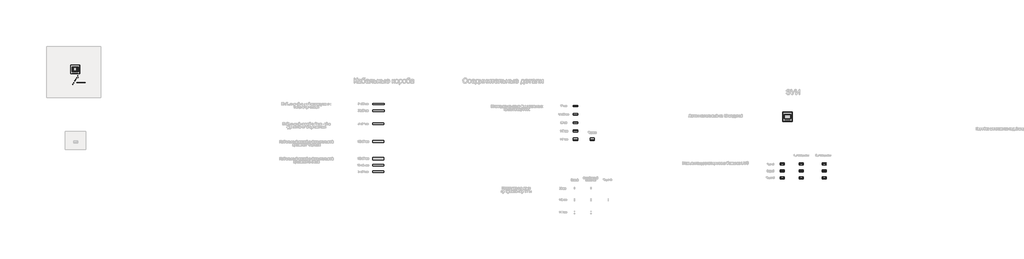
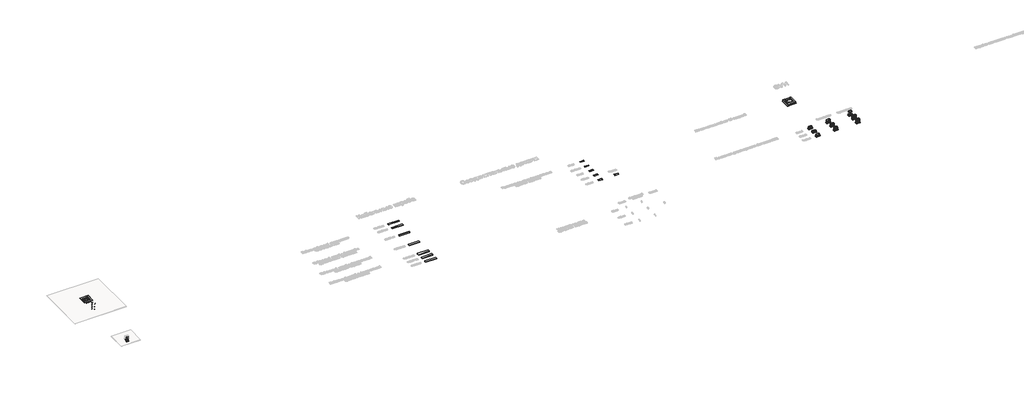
# One storey, part 2 of 48: 37 proxies, 31 cable carrier segments, 18 cable carrier fittings.
"""IFC4 building model written with IfcOpenShell, lengths in millimetres."""

from ifc_helpers import new_model, si_unit, point, frame, frame_2d, origin, place, context, project, spatial, polyline, circle_curve, trimmed, segment, composite_curve, outline, extrude, transform, mapped, element, save
from components import electrical_fixtures_62c05acc, electrical_fixtures_d9d6a25e, electrical_fixtures_e65b3ef2, electrical_fixtures_c1c56b4e, electrical_fixtures_f8ef05b3, electrical_fixtures_1be6d308, electrical_fixtures_432b87b8, electrical_fixtures_34fc644d, electrical_fixtures_3dbf6029, electrical_fixtures_686b93b9, electrical_fixtures_416891ac, electrical_fixtures_630f2619, electrical_fixtures_2df1c550, electrical_fixtures_1d311426, electrical_fixtures_5cea76de, electrical_fixtures_01b03277, electrical_fixtures_955ce091, cable_carrier_fitting_0182879c, cable_carrier_fitting_bd18bc15, cable_carrier_fitting_90a67864, cable_carrier_fitting_55dd1e67, cable_carrier_fitting_1b10b712, cable_carrier_fitting_b6f63aa2, cable_carrier_fitting_7589559d

model = new_model("IFC4")

# Units and contexts
model_context = context("Model", 3, world=origin())
ifc_project = project(units=[si_unit("LENGTHUNIT", "METRE", prefix="MILLI")], contexts=[model_context])

# Site, building, storey
site = spatial("IfcSite", under=ifc_project)
building = spatial("IfcBuilding", under=site)
storey = spatial("IfcBuildingStorey", under=building, Name="Этаж 01", Elevation=0.0)

# Proxies
placement = place(None, origin())
electrical_fixtures_shape = electrical_fixtures_62c05acc(model_context)
element("IfcBuildingElementProxy", 1, Name="Опалубка для лючков металлическая : Опалубка для лючков металлическая", ObjectType="Опалубка для лючков металлическая : Опалубка для лючков металлическая", at=placement, inside=storey, context=model_context, shape_type="MappedRepresentation", body=[
    mapped(electrical_fixtures_shape, transform((25863.7191063, 3878.3864585, -101.5), x_axis=(1.0, 0.0, 0.0), y_axis=(0.0, 1.0, 0.0), z_axis=(0.0, 0.0, 1.0))),
])
element("IfcBuildingElementProxy", 2, Name="Опалубка для лючков металлическая : Опалубка для лючков металлическая", ObjectType="Опалубка для лючков металлическая : Опалубка для лючков металлическая", at=placement, inside=storey, context=model_context, shape_type="MappedRepresentation", body=[
    mapped(electrical_fixtures_shape, transform((-16815.2403415, 6724.4342085, -101.5), x_axis=(1.0, 0.0, 0.0), y_axis=(0.0, 1.0, 0.0), z_axis=(0.0, 0.0, 1.0))),
])
electrical_fixtures_2_shape = electrical_fixtures_d9d6a25e(model_context)
element("IfcBuildingElementProxy", 3, Name="Суппорт для установки автоматических выключателей в лючок : Суппорт для установки автоматических выключателей в лючок", ObjectType="Суппорт для установки автоматических выключателей в лючок : Суппорт для установки автоматических выключателей в лючок", at=placement, inside=storey, context=model_context, shape_type="MappedRepresentation", body=[
    mapped(electrical_fixtures_2_shape, transform((25699.7142671, 3878.3864585, -89.5), x_axis=(0.0, 1.0, 0.0), y_axis=(-1.0, 0.0, 0.0), z_axis=(0.0, 0.0, 1.0))),
])
electrical_fixtures_3_shape = electrical_fixtures_e65b3ef2(model_context)
element("IfcBuildingElementProxy", 4, Name="Крышка опалубки для установки лючка In-liner Front 12 модулей : Крышка опалубки для установки лючка In-liner Front 12 модулей", ObjectType="Крышка опалубки для установки лючка In-liner Front 12 модулей : Крышка опалубки для установки лючка In-liner Front 12 модулей", at=placement, inside=storey, context=model_context, shape_type="MappedRepresentation", body=[
    mapped(electrical_fixtures_3_shape, transform((-16815.2403415, 6724.4342085, -2.0), x_axis=(0.0, 1.0, 0.0), y_axis=(-1.0, 0.0, 0.0), z_axis=(0.0, 0.0, 1.0))),
])
element("IfcBuildingElementProxy", 5, Name="Крышка опалубки для установки лючка In-liner Front 12 модулей : Крышка опалубки для установки лючка In-liner Front 12 модулей", ObjectType="Крышка опалубки для установки лючка In-liner Front 12 модулей : Крышка опалубки для установки лючка In-liner Front 12 модулей", at=placement, inside=storey, context=model_context, shape_type="MappedRepresentation", body=[
    mapped(electrical_fixtures_3_shape, transform((25863.7191063, 3878.3864585, -2.0), x_axis=(0.0, 1.0, 0.0), y_axis=(-1.0, 0.0, 0.0), z_axis=(0.0, 0.0, 1.0))),
])
electrical_fixtures_4_shape = electrical_fixtures_c1c56b4e(model_context)
element("IfcBuildingElementProxy", 6, Name="Крышка опалубки сплошная металлическая : Крышка опалубки сплошная металлическая", ObjectType="Крышка опалубки сплошная металлическая : Крышка опалубки сплошная металлическая", at=placement, inside=storey, context=model_context, shape_type="MappedRepresentation", body=[
    mapped(electrical_fixtures_4_shape, transform((25863.7191063, 3878.3864585, -2.0), x_axis=(1.0, 0.0, 0.0), y_axis=(0.0, 1.0, 0.0), z_axis=(0.0, 0.0, 1.0))),
])
electrical_fixtures_5_shape = electrical_fixtures_f8ef05b3(model_context)
element("IfcBuildingElementProxy", 7, Name="Вертикальное расширение напольной башенки BUS : Вертикальное расширение напольной башенки BUS", ObjectType="Вертикальное расширение напольной башенки BUS : Вертикальное расширение напольной башенки BUS", at=placement, inside=storey, context=model_context, shape_type="MappedRepresentation", body=[
    mapped(electrical_fixtures_5_shape, transform((26681.3045571, 1040.0571724, 91.5), x_axis=(1.0, 0.0, 0.0), y_axis=(0.0, 1.0, 0.0), z_axis=(0.0, 0.0, 1.0))),
])
electrical_fixtures_6_shape = electrical_fixtures_1be6d308(model_context)
element("IfcBuildingElementProxy", 8, Name="КНС_ЛючокНапольныйНа12Модулей_ILF_DKC : Лючок", ObjectType="КНС_ЛючокНапольныйНа12Модулей_ILF_DKC : Лючок", at=placement, inside=storey, context=model_context, shape_type="MappedRepresentation", body=[
    mapped(electrical_fixtures_6_shape, transform((25863.7191063, 3878.3864585, 0.0), x_axis=(1.0, 0.0, 0.0), y_axis=(0.0, 1.0, 0.0), z_axis=(0.0, 0.0, 1.0))),
])
electrical_fixtures_7_shape = electrical_fixtures_432b87b8(model_context)
element("IfcBuildingElementProxy", 9, Name="КНС_Каркас6МодулейДляМонтажаЭУИСерииViva_ILF_DKC : Белый", ObjectType="КНС_Каркас6МодулейДляМонтажаЭУИСерииViva_ILF_DKC : Белый", at=placement, inside=storey, context=model_context, shape_type="MappedRepresentation", body=[
    mapped(electrical_fixtures_7_shape, transform((-16954.0567368, 6730.3253747, -40.0), x_axis=(0.0, 1.0, 0.0), y_axis=(-1.0, 0.0, 0.0), z_axis=(0.0, 0.0, 1.0))),
])
electrical_fixtures_8_shape = electrical_fixtures_34fc644d(model_context)
element("IfcBuildingElementProxy", 10, Name="Комплект пластины для ввода труб в металлическую опалубку : Комплект пластины для ввода труб в металлическую опалубку", ObjectType="Комплект пластины для ввода труб в металлическую опалубку : Комплект пластины для ввода труб в металлическую опалубку", at=placement, inside=storey, context=model_context, shape_type="MappedRepresentation", body=[
    mapped(electrical_fixtures_8_shape, transform((25863.7191063, 3613.3864585, -59.5), x_axis=(1.0, 0.0, 0.0), y_axis=(0.0, 1.0, 0.0), z_axis=(0.0, 0.0, 1.0))),
])
element("IfcBuildingElementProxy", 11, Name="Комплект пластины для ввода труб в металлическую опалубку : Комплект пластины для ввода труб в металлическую опалубку", ObjectType="Комплект пластины для ввода труб в металлическую опалубку : Комплект пластины для ввода труб в металлическую опалубку", at=placement, inside=storey, context=model_context, shape_type="MappedRepresentation", body=[
    mapped(electrical_fixtures_8_shape, transform((-16815.2403415, 6459.4342085, -59.5), x_axis=(1.0, 0.0, 0.0), y_axis=(0.0, 1.0, 0.0), z_axis=(0.0, 0.0, 1.0))),
])
electrical_fixtures_9_shape = electrical_fixtures_3dbf6029(model_context)
element("IfcBuildingElementProxy", 12, Name="Электрические розетки, штекерные, с заземлением и со шторками, моноблок : Белый", ObjectType="Электрические розетки, штекерные, с заземлением и со шторками, моноблок : Белый", at=placement, inside=storey, context=model_context, shape_type="MappedRepresentation", body=[
    mapped(electrical_fixtures_9_shape, transform((-16956.5567368, 6730.3253747, -40.0), x_axis=(0.0, 1.0, 0.0), y_axis=(-1.0, 0.0, 0.0), z_axis=(0.0, 0.0, 1.0))),
])
electrical_fixtures_10_shape = electrical_fixtures_686b93b9(model_context)
element("IfcBuildingElementProxy", 13, Name="Электрические розетки, штекерные, с заземлением и со шторками, моноблок : Белый", ObjectType="Электрические розетки, штекерные, с заземлением и со шторками, моноблок : Белый", at=placement, inside=storey, context=model_context, shape_type="MappedRepresentation", body=[
    mapped(electrical_fixtures_10_shape, transform((-16673.9239462, 6730.3253747, -40.0), x_axis=(0.0, 1.0, 0.0), y_axis=(-1.0, 0.0, 0.0), z_axis=(0.0, 0.0, 1.0))),
])
electrical_fixtures_11_shape = electrical_fixtures_416891ac(model_context)
element("IfcBuildingElementProxy", 14, Name="Суппорт для монтажа ЭУИ серии Viva на DIN-рейку или монтажную плату1 : 1 модуль 2", ObjectType="Суппорт для монтажа ЭУИ серии Viva на DIN-рейку или монтажную плату1 : 1 модуль 2", at=placement, inside=storey, context=model_context, shape_type="MappedRepresentation", body=[
    mapped(electrical_fixtures_11_shape, transform((-16722.23976, 2325.6904128, 127.875), x_axis=(1.0, 0.0, 0.0), y_axis=(0.0, 1.0, 0.0), z_axis=(0.0, 0.0, 1.0))),
])
element("IfcBuildingElementProxy", 15, Name="Суппорт для монтажа ЭУИ серии Viva на DIN-рейку или монтажную плату1 : 1 модуль 2", ObjectType="Суппорт для монтажа ЭУИ серии Viva на DIN-рейку или монтажную плату1 : 1 модуль 2", at=placement, inside=storey, context=model_context, shape_type="MappedRepresentation", body=[
    mapped(electrical_fixtures_11_shape, transform((-16850.23976, 2325.6904128, 127.875), x_axis=(1.0, 0.0, 0.0), y_axis=(0.0, 1.0, 0.0), z_axis=(0.0, 0.0, 1.0))),
])
element("IfcBuildingElementProxy", 16, Name="Суппорт для монтажа ЭУИ серии Viva на DIN-рейку или монтажную плату1 : 1 модуль 2", ObjectType="Суппорт для монтажа ЭУИ серии Viva на DIN-рейку или монтажную плату1 : 1 модуль 2", at=placement, inside=storey, context=model_context, shape_type="MappedRepresentation", body=[
    mapped(electrical_fixtures_11_shape, transform((-16828.23976, 2325.6904128, 127.875), x_axis=(1.0, 0.0, 0.0), y_axis=(0.0, 1.0, 0.0), z_axis=(0.0, 0.0, 1.0))),
])
electrical_fixtures_12_shape = electrical_fixtures_630f2619(model_context)
element("IfcBuildingElementProxy", 17, Name="Компьютерные розетки : Категория 5e", ObjectType="Компьютерные розетки : Категория 5e", at=placement, inside=storey, context=model_context, shape_type="MappedRepresentation", body=[
    mapped(electrical_fixtures_12_shape, transform((-16722.23976, 2337.6904128, 127.875), x_axis=(1.0, 0.0, 0.0), y_axis=(0.0, 1.0, 0.0), z_axis=(0.0, 0.0, 1.0))),
])
element("IfcBuildingElementProxy", 18, Name="Компьютерные розетки : Категория 5e", ObjectType="Компьютерные розетки : Категория 5e", at=placement, inside=storey, context=model_context, shape_type="MappedRepresentation", body=[
    mapped(electrical_fixtures_12_shape, transform((-16850.23976, 2337.6904128, 127.875), x_axis=(1.0, 0.0, 0.0), y_axis=(0.0, 1.0, 0.0), z_axis=(0.0, 0.0, 1.0))),
])
element("IfcBuildingElementProxy", 19, Name="Компьютерные розетки : Категория 5e", ObjectType="Компьютерные розетки : Категория 5e", at=placement, inside=storey, context=model_context, shape_type="MappedRepresentation", body=[
    mapped(electrical_fixtures_12_shape, transform((-16828.23976, 2337.6904128, 127.875), x_axis=(1.0, 0.0, 0.0), y_axis=(0.0, 1.0, 0.0), z_axis=(0.0, 0.0, 1.0))),
])
electrical_fixtures_13_shape = electrical_fixtures_2df1c550(model_context)
element("IfcBuildingElementProxy", 20, Name="КНС_НапольнаяДвухсторонняяБашенкаBUS_ILF_DKC : Напольная двухсторонняя башенка BUS_ILF_DKC", ObjectType="КНС_НапольнаяДвухсторонняяБашенкаBUS_ILF_DKC : Напольная двухсторонняя башенка BUS_ILF_DKC", at=placement, inside=storey, context=model_context, shape_type="MappedRepresentation", body=[
    mapped(electrical_fixtures_13_shape, transform((25543.7191063, 210.3603801, 0.0), x_axis=(1.0, 0.0, 0.0), y_axis=(0.0, 1.0, 0.0), z_axis=(0.0, 0.0, 1.0))),
])
electrical_fixtures_14_shape = electrical_fixtures_1d311426(model_context)
element("IfcBuildingElementProxy", 21, Name="КНС_НапольнаяДвухсторонняяБашенкаBUS_ILF_DKC : Напольная двухсторонняя башенка BUS_ILF_DKC", ObjectType="КНС_НапольнаяДвухсторонняяБашенкаBUS_ILF_DKC : Напольная двухсторонняя башенка BUS_ILF_DKC", at=placement, inside=storey, context=model_context, shape_type="MappedRepresentation", body=[
    mapped(electrical_fixtures_14_shape, transform((26681.3045571, 210.3603801, 0.0), x_axis=(1.0, 0.0, 0.0), y_axis=(0.0, 1.0, 0.0), z_axis=(0.0, 0.0, 1.0))),
])
element("IfcBuildingElementProxy", 22, Name="Вертикальное расширение напольной башенки BUS : Вертикальное расширение напольной башенки BUS", ObjectType="Вертикальное расширение напольной башенки BUS : Вертикальное расширение напольной башенки BUS", at=placement, inside=storey, context=model_context, shape_type="MappedRepresentation", body=[
    mapped(electrical_fixtures_5_shape, transform((26681.3045571, 210.3603801, 91.5), x_axis=(1.0, 0.0, 0.0), y_axis=(0.0, 1.0, 0.0), z_axis=(0.0, 0.0, 1.0))),
])
element("IfcBuildingElementProxy", 23, Name="Вертикальное расширение напольной башенки BUS : Вертикальное расширение напольной башенки BUS", ObjectType="Вертикальное расширение напольной башенки BUS : Вертикальное расширение напольной башенки BUS", at=placement, inside=storey, context=model_context, shape_type="MappedRepresentation", body=[
    mapped(electrical_fixtures_5_shape, transform((28063.7191063, 210.3603801, 91.5), x_axis=(1.0, 0.0, 0.0), y_axis=(0.0, 1.0, 0.0), z_axis=(0.0, 0.0, 1.0))),
])
element("IfcBuildingElementProxy", 24, Name="Вертикальное расширение напольной башенки BUS : Вертикальное расширение напольной башенки BUS", ObjectType="Вертикальное расширение напольной башенки BUS : Вертикальное расширение напольной башенки BUS", at=placement, inside=storey, context=model_context, shape_type="MappedRepresentation", body=[
    mapped(electrical_fixtures_5_shape, transform((28063.7191063, 210.3603801, 162.5), x_axis=(1.0, 0.0, 0.0), y_axis=(0.0, 1.0, 0.0), z_axis=(0.0, 0.0, 1.0))),
])
element("IfcBuildingElementProxy", 25, Name="КНС_НапольнаяДвухсторонняяБашенкаBUS_ILF_DKC : Напольная двухсторонняя башенка BUS_ILF_DKC", ObjectType="КНС_НапольнаяДвухсторонняяБашенкаBUS_ILF_DKC : Напольная двухсторонняя башенка BUS_ILF_DKC", at=placement, inside=storey, context=model_context, shape_type="MappedRepresentation", body=[
    mapped(electrical_fixtures_13_shape, transform((25543.7191063, 625.2087763, 0.0), x_axis=(1.0, 0.0, 0.0), y_axis=(0.0, 1.0, 0.0), z_axis=(0.0, 0.0, 1.0))),
])
element("IfcBuildingElementProxy", 26, Name="КНС_НапольнаяДвухсторонняяБашенкаBUS_ILF_DKC : Напольная двухсторонняя башенка BUS_ILF_DKC", ObjectType="КНС_НапольнаяДвухсторонняяБашенкаBUS_ILF_DKC : Напольная двухсторонняя башенка BUS_ILF_DKC", at=placement, inside=storey, context=model_context, shape_type="MappedRepresentation", body=[
    mapped(electrical_fixtures_13_shape, transform((25543.7191063, 1040.0571724, 0.0), x_axis=(1.0, 0.0, 0.0), y_axis=(0.0, 1.0, 0.0), z_axis=(0.0, 0.0, 1.0))),
])
element("IfcBuildingElementProxy", 27, Name="КНС_НапольнаяДвухсторонняяБашенкаBUS_ILF_DKC : Напольная двухсторонняя башенка BUS_ILF_DKC", ObjectType="КНС_НапольнаяДвухсторонняяБашенкаBUS_ILF_DKC : Напольная двухсторонняя башенка BUS_ILF_DKC", at=placement, inside=storey, context=model_context, shape_type="MappedRepresentation", body=[
    mapped(electrical_fixtures_14_shape, transform((26681.3045571, 1040.0571724, 0.0), x_axis=(1.0, 0.0, 0.0), y_axis=(0.0, 1.0, 0.0), z_axis=(0.0, 0.0, 1.0))),
])
electrical_fixtures_15_shape = electrical_fixtures_5cea76de(model_context)
element("IfcBuildingElementProxy", 28, Name="КНС_НапольнаяДвухсторонняяБашенкаBUS_ILF_DKC : Напольная двухсторонняя башенка BUS_ILF_DKC", ObjectType="КНС_НапольнаяДвухсторонняяБашенкаBUS_ILF_DKC : Напольная двухсторонняя башенка BUS_ILF_DKC", at=placement, inside=storey, context=model_context, shape_type="MappedRepresentation", body=[
    mapped(electrical_fixtures_15_shape, transform((28063.7191063, 1040.0571724, 0.0), x_axis=(1.0, 0.0, 0.0), y_axis=(0.0, 1.0, 0.0), z_axis=(0.0, 0.0, 1.0))),
])
element("IfcBuildingElementProxy", 29, Name="КНС_НапольнаяДвухсторонняяБашенкаBUS_ILF_DKC : Напольная двухсторонняя башенка BUS_ILF_DKC", ObjectType="КНС_НапольнаяДвухсторонняяБашенкаBUS_ILF_DKC : Напольная двухсторонняя башенка BUS_ILF_DKC", at=placement, inside=storey, context=model_context, shape_type="MappedRepresentation", body=[
    mapped(electrical_fixtures_15_shape, transform((28063.7191063, 210.3603801, 0.0), x_axis=(1.0, 0.0, 0.0), y_axis=(0.0, 1.0, 0.0), z_axis=(0.0, 0.0, 1.0))),
])
element("IfcBuildingElementProxy", 30, Name="КНС_НапольнаяДвухсторонняяБашенкаBUS_ILF_DKC : Напольная двухсторонняя башенка BUS_ILF_DKC", ObjectType="КНС_НапольнаяДвухсторонняяБашенкаBUS_ILF_DKC : Напольная двухсторонняя башенка BUS_ILF_DKC", at=placement, inside=storey, context=model_context, shape_type="MappedRepresentation", body=[
    mapped(electrical_fixtures_14_shape, transform((26681.3045571, 625.2087763, 0.0), x_axis=(1.0, 0.0, 0.0), y_axis=(0.0, 1.0, 0.0), z_axis=(0.0, 0.0, 1.0))),
])
element("IfcBuildingElementProxy", 31, Name="Вертикальное расширение напольной башенки BUS : Вертикальное расширение напольной башенки BUS", ObjectType="Вертикальное расширение напольной башенки BUS : Вертикальное расширение напольной башенки BUS", at=placement, inside=storey, context=model_context, shape_type="MappedRepresentation", body=[
    mapped(electrical_fixtures_5_shape, transform((26681.3045571, 625.2087763, 91.5), x_axis=(1.0, 0.0, 0.0), y_axis=(0.0, 1.0, 0.0), z_axis=(0.0, 0.0, 1.0))),
])
element("IfcBuildingElementProxy", 32, Name="Вертикальное расширение напольной башенки BUS : Вертикальное расширение напольной башенки BUS", ObjectType="Вертикальное расширение напольной башенки BUS : Вертикальное расширение напольной башенки BUS", at=placement, inside=storey, context=model_context, shape_type="MappedRepresentation", body=[
    mapped(electrical_fixtures_5_shape, transform((28063.7191063, 625.2087763, 91.5), x_axis=(1.0, 0.0, 0.0), y_axis=(0.0, 1.0, 0.0), z_axis=(0.0, 0.0, 1.0))),
])
element("IfcBuildingElementProxy", 33, Name="Вертикальное расширение напольной башенки BUS : Вертикальное расширение напольной башенки BUS", ObjectType="Вертикальное расширение напольной башенки BUS : Вертикальное расширение напольной башенки BUS", at=placement, inside=storey, context=model_context, shape_type="MappedRepresentation", body=[
    mapped(electrical_fixtures_5_shape, transform((28063.7191063, 625.2087763, 162.5), x_axis=(1.0, 0.0, 0.0), y_axis=(0.0, 1.0, 0.0), z_axis=(0.0, 0.0, 1.0))),
])
element("IfcBuildingElementProxy", 34, Name="КНС_НапольнаяДвухсторонняяБашенкаBUS_ILF_DKC : Напольная двухсторонняя башенка BUS_ILF_DKC", ObjectType="КНС_НапольнаяДвухсторонняяБашенкаBUS_ILF_DKC : Напольная двухсторонняя башенка BUS_ILF_DKC", at=placement, inside=storey, context=model_context, shape_type="MappedRepresentation", body=[
    mapped(electrical_fixtures_15_shape, transform((28063.7191063, 625.2087763, 0.0), x_axis=(1.0, 0.0, 0.0), y_axis=(0.0, 1.0, 0.0), z_axis=(0.0, 0.0, 1.0))),
])
electrical_fixtures_16_shape = electrical_fixtures_01b03277(model_context)
element("IfcBuildingElementProxy", 35, Name="КНС_Каркас6МодулейДляМонтажаЭУИСерииViva_ILF_DKC : Белый", ObjectType="КНС_Каркас6МодулейДляМонтажаЭУИСерииViva_ILF_DKC : Белый", at=placement, inside=storey, context=model_context, shape_type="MappedRepresentation", body=[
    mapped(electrical_fixtures_16_shape, transform((-16676.4239462, 6730.3253747, -40.0), x_axis=(0.0, 1.0, 0.0), y_axis=(-1.0, 0.0, 0.0), z_axis=(0.0, 0.0, 1.0))),
])
electrical_fixtures_17_shape = electrical_fixtures_955ce091(model_context)
element("IfcBuildingElementProxy", 36, Name="Суппорт для установки автоматических выключателей в лючок : Суппорт для установки автоматических выключателей в лючок", ObjectType="Суппорт для установки автоматических выключателей в лючок : Суппорт для установки автоматических выключателей в лючок", at=placement, inside=storey, context=model_context, shape_type="MappedRepresentation", body=[
    mapped(electrical_fixtures_17_shape, transform((26027.7239455, 3878.3864585, -89.5), x_axis=(0.0, 1.0, 0.0), y_axis=(-1.0, 0.0, 0.0), z_axis=(0.0, 0.0, 1.0))),
])
element("IfcBuildingElementProxy", 37, Name="КНС_ЛючокНапольныйНа12Модулей_ILF_DKC : Лючок", ObjectType="КНС_ЛючокНапольныйНа12Модулей_ILF_DKC : Лючок", at=placement, inside=storey, context=model_context, shape_type="MappedRepresentation", body=[
    mapped(electrical_fixtures_6_shape, transform((-16815.2403415, 6724.4342085, 0.0), x_axis=(1.0, 0.0, 0.0), y_axis=(0.0, 1.0, 0.0), z_axis=(0.0, 0.0, 1.0))),
])

# Cable carrier fittings
cable_carrier_fitting_shape = cable_carrier_fitting_0182879c(model_context)
element("IfcCableCarrierFitting", 38, ObjectType="КНС_НакладкаНаСтыкФронтальныхКрышекКоробов_ILF_DKC : Накладка на стык фронтальных крышек коробов", at=placement, inside=storey, context=model_context, shape_type="MappedRepresentation", body=[
    mapped(cable_carrier_fitting_shape, transform((14161.9982063, 2519.1365557, 0.0), x_axis=(1.0, 0.0, 0.0), y_axis=(0.0, 1.0, 0.0), z_axis=(0.0, 0.0, 1.0))),
])
cable_carrier_fitting_2_shape = cable_carrier_fitting_bd18bc15(model_context)
element("IfcCableCarrierFitting", 39, ObjectType="ADSK_Поворот : Металл", at=placement, inside=storey, context=model_context, shape_type="MappedRepresentation", body=[
    mapped(cable_carrier_fitting_2_shape, transform((-16725.2403415, 6123.3667815, -59.5), x_axis=(0.0, -1.0, 0.0), y_axis=(1.0, 0.0, 0.0), z_axis=(0.0, 0.0, 1.0))),
])
element("IfcCableCarrierFitting", 40, ObjectType="ADSK_Поворот : Металл", at=placement, inside=storey, context=model_context, shape_type="MappedRepresentation", body=[
    mapped(cable_carrier_fitting_2_shape, transform((-16665.2403415, 6224.3667815, -59.5), x_axis=(0.0, -1.0, 0.0), y_axis=(1.0, 0.0, 0.0), z_axis=(0.0, 0.0, 1.0))),
])
element("IfcCableCarrierFitting", 41, ObjectType="ADSK_Поворот : Металл", at=placement, inside=storey, context=model_context, shape_type="MappedRepresentation", body=[
    mapped(cable_carrier_fitting_2_shape, transform((-16785.2403415, 6022.3667815, -59.5), x_axis=(0.0, -1.0, 0.0), y_axis=(1.0, 0.0, 0.0), z_axis=(0.0, 0.0, 1.0))),
])
element("IfcCableCarrierFitting", 42, ObjectType="ADSK_Поворот : Металл", at=placement, inside=storey, context=model_context, shape_type="MappedRepresentation", body=[
    mapped(cable_carrier_fitting_2_shape, transform((-16845.2403415, 5921.3667815, -59.5), x_axis=(0.0, -1.0, 0.0), y_axis=(1.0, 0.0, 0.0), z_axis=(0.0, 0.0, 1.0))),
])
element("IfcCableCarrierFitting", 43, ObjectType="ADSK_Поворот : Металл", at=placement, inside=storey, context=model_context, shape_type="MappedRepresentation", body=[
    mapped(cable_carrier_fitting_2_shape, transform((-16905.2403415, 5820.3667815, -59.5), x_axis=(0.0, -1.0, 0.0), y_axis=(1.0, 0.0, 0.0), z_axis=(0.0, 0.0, 1.0))),
])
element("IfcCableCarrierFitting", 44, ObjectType="ADSK_Поворот : Металл", at=placement, inside=storey, context=model_context, shape_type="MappedRepresentation", body=[
    mapped(cable_carrier_fitting_2_shape, transform((-16965.2403415, 5719.3667815, -59.5), x_axis=(0.0, -1.0, 0.0), y_axis=(1.0, 0.0, 0.0), z_axis=(0.0, 0.0, 1.0))),
])
cable_carrier_fitting_3_shape = cable_carrier_fitting_90a67864(model_context)
element("IfcCableCarrierFitting", 45, ObjectType="ADSK_Поворот : Металл", at=placement, inside=storey, context=model_context, shape_type="MappedRepresentation", body=[
    mapped(cable_carrier_fitting_3_shape, transform((-16865.73976, 2343.8244085, -111.0), x_axis=(0.0, 0.0, -1.0), y_axis=(0.0, -1.0, 0.0), z_axis=(-1.0, 0.0, 0.0))),
])
element("IfcCableCarrierFitting", 46, ObjectType="ADSK_Поворот : Металл", at=placement, inside=storey, context=model_context, shape_type="MappedRepresentation", body=[
    mapped(cable_carrier_fitting_3_shape, transform((-16833.23976, 2343.8244085, -111.0), x_axis=(0.0, 0.0, -1.0), y_axis=(0.0, -1.0, 0.0), z_axis=(-1.0, 0.0, 0.0))),
])
element("IfcCableCarrierFitting", 47, ObjectType="ADSK_Поворот : Металл", at=placement, inside=storey, context=model_context, shape_type="MappedRepresentation", body=[
    mapped(cable_carrier_fitting_3_shape, transform((-16800.73976, 2343.8244085, -111.0), x_axis=(0.0, 0.0, -1.0), y_axis=(0.0, -1.0, 0.0), z_axis=(-1.0, 0.0, 0.0))),
])
element("IfcCableCarrierFitting", 48, ObjectType="ADSK_Поворот : Металл", at=placement, inside=storey, context=model_context, shape_type="MappedRepresentation", body=[
    mapped(cable_carrier_fitting_3_shape, transform((-16770.73976, 2343.8244085, -111.0), x_axis=(0.0, 0.0, -1.0), y_axis=(0.0, -1.0, 0.0), z_axis=(-1.0, 0.0, 0.0))),
])
element("IfcCableCarrierFitting", 49, ObjectType="ADSK_Поворот : Металл", at=placement, inside=storey, context=model_context, shape_type="MappedRepresentation", body=[
    mapped(cable_carrier_fitting_3_shape, transform((-16738.23976, 2343.8244085, -111.0), x_axis=(0.0, 0.0, -1.0), y_axis=(0.0, -1.0, 0.0), z_axis=(-1.0, 0.0, 0.0))),
])
element("IfcCableCarrierFitting", 50, ObjectType="ADSK_Поворот : Металл", at=placement, inside=storey, context=model_context, shape_type="MappedRepresentation", body=[
    mapped(cable_carrier_fitting_3_shape, transform((-16705.73976, 2343.8244085, -111.0), x_axis=(0.0, 0.0, -1.0), y_axis=(0.0, -1.0, 0.0), z_axis=(-1.0, 0.0, 0.0))),
])
element("IfcCableCarrierFitting", 51, ObjectType="КНС_НакладкаНаСтыкФронтальныхКрышекКоробов_ILF_DKC : Накладка на стык фронтальных крышек коробов", at=placement, inside=storey, context=model_context, shape_type="MappedRepresentation", body=[
    mapped(cable_carrier_fitting_shape, transform((13161.9982063, 2519.1365557, 0.0), x_axis=(1.0, 0.0, 0.0), y_axis=(0.0, 1.0, 0.0), z_axis=(0.0, 0.0, 1.0))),
])
cable_carrier_fitting_4_shape = cable_carrier_fitting_55dd1e67(model_context)
element("IfcCableCarrierFitting", 52, ObjectType="КНС_НакладкаНаСтыкФронтальныхКрышекКоробов_ILF_DKC : Накладка на стык фронтальных крышек коробов", at=placement, inside=storey, context=model_context, shape_type="MappedRepresentation", body=[
    mapped(cable_carrier_fitting_4_shape, transform((13161.9982063, 4519.1365557, 0.0), x_axis=(1.0, 0.0, 0.0), y_axis=(0.0, 1.0, 0.0), z_axis=(0.0, 0.0, 1.0))),
])
cable_carrier_fitting_5_shape = cable_carrier_fitting_1b10b712(model_context)
element("IfcCableCarrierFitting", 53, ObjectType="КНС_НакладкаНаСтыкФронтальныхКрышекКоробов_ILF_DKC : Накладка на стык фронтальных крышек коробов", at=placement, inside=storey, context=model_context, shape_type="MappedRepresentation", body=[
    mapped(cable_carrier_fitting_5_shape, transform((13161.9982063, 4019.1365557, 0.0), x_axis=(1.0, 0.0, 0.0), y_axis=(0.0, 1.0, 0.0), z_axis=(0.0, 0.0, 1.0))),
])
cable_carrier_fitting_6_shape = cable_carrier_fitting_b6f63aa2(model_context)
element("IfcCableCarrierFitting", 54, ObjectType="КНС_НакладкаНаСтыкФронтальныхКрышекКоробов_ILF_DKC : Накладка на стык фронтальных крышек коробов", at=placement, inside=storey, context=model_context, shape_type="MappedRepresentation", body=[
    mapped(cable_carrier_fitting_6_shape, transform((13161.9982063, 3519.1365557, 0.0), x_axis=(1.0, 0.0, 0.0), y_axis=(0.0, 1.0, 0.0), z_axis=(0.0, 0.0, 1.0))),
])
cable_carrier_fitting_7_shape = cable_carrier_fitting_7589559d(model_context)
element("IfcCableCarrierFitting", 55, ObjectType="КНС_НакладкаНаСтыкФронтальныхКрышекКоробов_ILF_DKC : Накладка на стык фронтальных крышек коробов", at=placement, inside=storey, context=model_context, shape_type="MappedRepresentation", body=[
    mapped(cable_carrier_fitting_7_shape, transform((13161.9982063, 3019.1365557, 0.0), x_axis=(1.0, 0.0, 0.0), y_axis=(0.0, 1.0, 0.0), z_axis=(0.0, 0.0, 1.0))),
])

# Cable carrier segments
element("IfcCableCarrierSegment", 56, ObjectType="Кабельный короб с фронтальной крышкой Черный", at=placement, inside=storey, context=model_context, shape_type="SweptSolid", body=[
    extrude(outline(polyline([(1005.4005293, 2333.9114021), (1005.4005293, 2443.9114021), (1685.4005293, 2443.9114021), (1685.4005293, 2333.9114021), (1005.4005293, 2333.9114021)])), frame((0.0, 0.0, -25.0), z_axis=(0.0, 0.0, 1.0), x_axis=(1.0, 0.0, 0.0)), (0.0, 0.0, 1.0), 50.0),
])
element("IfcCableCarrierSegment", 57, ObjectType="Кабельный короб с фронтальной крышкой Белый", at=placement, inside=storey, context=model_context, shape_type="SweptSolid", body=[
    extrude(outline(polyline([(1005.4005293, 1298.9114021), (1005.4005293, 1438.9114021), (1685.4005293, 1438.9114021), (1685.4005293, 1298.9114021), (1005.4005293, 1298.9114021)])), frame((0.0, 0.0, -25.0), z_axis=(0.0, 0.0, 1.0), x_axis=(1.0, 0.0, 0.0)), (0.0, 0.0, 1.0), 50.0),
])
element("IfcCableCarrierSegment", 58, ObjectType="Кабельный короб плинтусного типа с крышкой", at=placement, inside=storey, context=model_context, shape_type="SweptSolid", body=[
    extrude(outline(polyline([(1005.4005293, 4610.4604534), (1005.4005293, 4680.4604534), (1701.760919, 4680.4604534), (1701.760919, 4610.4604534), (1005.4005293, 4610.4604534)])), frame((0.0, 0.0, -12.5), z_axis=(0.0, 0.0, 1.0), x_axis=(1.0, 0.0, 0.0)), (0.0, 0.0, 1.0), 25.0),
])
element("IfcCableCarrierSegment", 59, ObjectType="Кабельный короб с боковой и фронтальной крышками", at=placement, inside=storey, context=model_context, shape_type="SweptSolid", body=[
    extrude(outline(polyline([(1670.4005293, 3493.9114021), (1670.4005293, 3403.9114021), (1005.4005293, 3403.9114021), (1005.4005293, 3493.9114021), (1670.4005293, 3493.9114021)])), frame((0.0, 0.0, -25.0), z_axis=(0.0, 0.0, 1.0), x_axis=(1.0, 0.0, 0.0)), (0.0, 0.0, 1.0), 50.0),
])
element("IfcCableCarrierSegment", 60, ObjectType="ADSK_Труба водогазопроводная_Стальная", at=placement, inside=storey, context=model_context, shape_type="SweptSolid", body=[
    extrude(outline(composite_curve([segment(trimmed(circle_curve(frame_2d((-59.5, -16665.2403415)), 25.0), [point((-59.5, -16690.2403415))], [point((-84.5, -16665.2403415))], False, "CARTESIAN"), True, "CONTINUOUS"), segment(trimmed(circle_curve(frame_2d((-59.5, -16665.2403415)), 25.0), [point((-84.5, -16665.2403415))], [point((-59.5, -16640.2403415))], False, "CARTESIAN"), True, "CONTINUOUS"), segment(trimmed(circle_curve(frame_2d((-59.5, -16665.2403415)), 25.0), [point((-59.5, -16640.2403415))], [point((-34.5, -16665.2403415))], False, "CARTESIAN"), True, "CONTINUOUS"), segment(trimmed(circle_curve(frame_2d((-59.5, -16665.2403415)), 25.0), [point((-34.5, -16665.2403415))], [point((-59.5, -16690.2403415))], False, "CARTESIAN"), True, "CONTINUOUS")], self_intersect=False)), frame((0.0, 6339.3667815, 0.0), z_axis=(0.0, 1.0, 0.0), x_axis=(0.0, 0.0, 1.0)), (0.0, 0.0, 1.0), 115.0),
])
element("IfcCableCarrierSegment", 61, ObjectType="ADSK_Труба водогазопроводная_Стальная", at=placement, inside=storey, context=model_context, shape_type="SweptSolid", body=[
    extrude(outline(composite_curve([segment(trimmed(circle_curve(frame_2d((-59.5, -16725.2403415)), 25.0), [point((-59.5, -16750.2403415))], [point((-84.5, -16725.2403415))], False, "CARTESIAN"), True, "CONTINUOUS"), segment(trimmed(circle_curve(frame_2d((-59.5, -16725.2403415)), 25.0), [point((-84.5, -16725.2403415))], [point((-59.5, -16700.2403415))], False, "CARTESIAN"), True, "CONTINUOUS"), segment(trimmed(circle_curve(frame_2d((-59.5, -16725.2403415)), 25.0), [point((-59.5, -16700.2403415))], [point((-34.5, -16725.2403415))], False, "CARTESIAN"), True, "CONTINUOUS"), segment(trimmed(circle_curve(frame_2d((-59.5, -16725.2403415)), 25.0), [point((-34.5, -16725.2403415))], [point((-59.5, -16750.2403415))], False, "CARTESIAN"), True, "CONTINUOUS")], self_intersect=False)), frame((0.0, 6238.3667815, 0.0), z_axis=(0.0, 1.0, 0.0), x_axis=(0.0, 0.0, 1.0)), (0.0, 0.0, 1.0), 216.0),
])
element("IfcCableCarrierSegment", 62, ObjectType="ADSK_Труба водогазопроводная_Стальная", at=placement, inside=storey, context=model_context, shape_type="SweptSolid", body=[
    extrude(outline(composite_curve([segment(trimmed(circle_curve(frame_2d((6123.3667815, -59.5)), 25.0), [point((6098.3667815, -59.5))], [point((6123.3667815, -34.5))], False, "CARTESIAN"), True, "CONTINUOUS"), segment(trimmed(circle_curve(frame_2d((6123.3667815, -59.5)), 25.0), [point((6123.3667815, -34.5))], [point((6148.3667815, -59.5))], False, "CARTESIAN"), True, "CONTINUOUS"), segment(trimmed(circle_curve(frame_2d((6123.3667815, -59.5)), 25.0), [point((6148.3667815, -59.5))], [point((6123.3667815, -84.5))], False, "CARTESIAN"), True, "CONTINUOUS"), segment(trimmed(circle_curve(frame_2d((6123.3667815, -59.5)), 25.0), [point((6123.3667815, -84.5))], [point((6098.3667815, -59.5))], False, "CARTESIAN"), True, "CONTINUOUS")], self_intersect=False)), frame((-16610.2403415, 0.0, 0.0), z_axis=(1.0, 0.0, 0.0), x_axis=(0.0, 1.0, 0.0)), (0.0, 0.0, 1.0), 410.0),
])
element("IfcCableCarrierSegment", 63, ObjectType="ADSK_Труба водогазопроводная_Стальная", at=placement, inside=storey, context=model_context, shape_type="SweptSolid", body=[
    extrude(outline(composite_curve([segment(trimmed(circle_curve(frame_2d((6224.3667815, -59.5)), 25.0), [point((6199.3667815, -59.5))], [point((6224.3667815, -34.5))], False, "CARTESIAN"), True, "CONTINUOUS"), segment(trimmed(circle_curve(frame_2d((6224.3667815, -59.5)), 25.0), [point((6224.3667815, -34.5))], [point((6249.3667815, -59.5))], False, "CARTESIAN"), True, "CONTINUOUS"), segment(trimmed(circle_curve(frame_2d((6224.3667815, -59.5)), 25.0), [point((6249.3667815, -59.5))], [point((6224.3667815, -84.5))], False, "CARTESIAN"), True, "CONTINUOUS"), segment(trimmed(circle_curve(frame_2d((6224.3667815, -59.5)), 25.0), [point((6224.3667815, -84.5))], [point((6199.3667815, -59.5))], False, "CARTESIAN"), True, "CONTINUOUS")], self_intersect=False)), frame((-16550.2403415, 0.0, 0.0), z_axis=(1.0, 0.0, 0.0), x_axis=(0.0, 1.0, 0.0)), (0.0, 0.0, 1.0), 350.0),
])
element("IfcCableCarrierSegment", 64, ObjectType="ADSK_Труба водогазопроводная_Стальная", at=placement, inside=storey, context=model_context, shape_type="SweptSolid", body=[
    extrude(outline(composite_curve([segment(trimmed(circle_curve(frame_2d((-59.5, -16785.2403415)), 25.0), [point((-59.5, -16810.2403415))], [point((-84.5, -16785.2403415))], False, "CARTESIAN"), True, "CONTINUOUS"), segment(trimmed(circle_curve(frame_2d((-59.5, -16785.2403415)), 25.0), [point((-84.5, -16785.2403415))], [point((-59.5, -16760.2403415))], False, "CARTESIAN"), True, "CONTINUOUS"), segment(trimmed(circle_curve(frame_2d((-59.5, -16785.2403415)), 25.0), [point((-59.5, -16760.2403415))], [point((-34.5, -16785.2403415))], False, "CARTESIAN"), True, "CONTINUOUS"), segment(trimmed(circle_curve(frame_2d((-59.5, -16785.2403415)), 25.0), [point((-34.5, -16785.2403415))], [point((-59.5, -16810.2403415))], False, "CARTESIAN"), True, "CONTINUOUS")], self_intersect=False)), frame((0.0, 6137.3667815, 0.0), z_axis=(0.0, 1.0, 0.0), x_axis=(0.0, 0.0, 1.0)), (0.0, 0.0, 1.0), 317.0),
])
element("IfcCableCarrierSegment", 65, ObjectType="ADSK_Труба водогазопроводная_Стальная", at=placement, inside=storey, context=model_context, shape_type="SweptSolid", body=[
    extrude(outline(composite_curve([segment(trimmed(circle_curve(frame_2d((6022.3667815, -59.5)), 25.0), [point((5997.3667815, -59.5))], [point((6022.3667815, -34.5))], False, "CARTESIAN"), True, "CONTINUOUS"), segment(trimmed(circle_curve(frame_2d((6022.3667815, -59.5)), 25.0), [point((6022.3667815, -34.5))], [point((6047.3667815, -59.5))], False, "CARTESIAN"), True, "CONTINUOUS"), segment(trimmed(circle_curve(frame_2d((6022.3667815, -59.5)), 25.0), [point((6047.3667815, -59.5))], [point((6022.3667815, -84.5))], False, "CARTESIAN"), True, "CONTINUOUS"), segment(trimmed(circle_curve(frame_2d((6022.3667815, -59.5)), 25.0), [point((6022.3667815, -84.5))], [point((5997.3667815, -59.5))], False, "CARTESIAN"), True, "CONTINUOUS")], self_intersect=False)), frame((-16670.2403415, 0.0, 0.0), z_axis=(1.0, 0.0, 0.0), x_axis=(0.0, 1.0, 0.0)), (0.0, 0.0, 1.0), 470.0),
])
element("IfcCableCarrierSegment", 66, ObjectType="ADSK_Труба водогазопроводная_Стальная", at=placement, inside=storey, context=model_context, shape_type="SweptSolid", body=[
    extrude(outline(composite_curve([segment(trimmed(circle_curve(frame_2d((-59.5, -16845.2403415)), 25.0), [point((-59.5, -16870.2403415))], [point((-84.5, -16845.2403415))], False, "CARTESIAN"), True, "CONTINUOUS"), segment(trimmed(circle_curve(frame_2d((-59.5, -16845.2403415)), 25.0), [point((-84.5, -16845.2403415))], [point((-59.5, -16820.2403415))], False, "CARTESIAN"), True, "CONTINUOUS"), segment(trimmed(circle_curve(frame_2d((-59.5, -16845.2403415)), 25.0), [point((-59.5, -16820.2403415))], [point((-34.5, -16845.2403415))], False, "CARTESIAN"), True, "CONTINUOUS"), segment(trimmed(circle_curve(frame_2d((-59.5, -16845.2403415)), 25.0), [point((-34.5, -16845.2403415))], [point((-59.5, -16870.2403415))], False, "CARTESIAN"), True, "CONTINUOUS")], self_intersect=False)), frame((0.0, 6036.3667815, 0.0), z_axis=(0.0, 1.0, 0.0), x_axis=(0.0, 0.0, 1.0)), (0.0, 0.0, 1.0), 418.0),
])
element("IfcCableCarrierSegment", 67, ObjectType="ADSK_Труба водогазопроводная_Стальная", at=placement, inside=storey, context=model_context, shape_type="SweptSolid", body=[
    extrude(outline(composite_curve([segment(trimmed(circle_curve(frame_2d((5921.3667815, -59.5)), 25.0), [point((5896.3667815, -59.5))], [point((5921.3667815, -34.5))], False, "CARTESIAN"), True, "CONTINUOUS"), segment(trimmed(circle_curve(frame_2d((5921.3667815, -59.5)), 25.0), [point((5921.3667815, -34.5))], [point((5946.3667815, -59.5))], False, "CARTESIAN"), True, "CONTINUOUS"), segment(trimmed(circle_curve(frame_2d((5921.3667815, -59.5)), 25.0), [point((5946.3667815, -59.5))], [point((5921.3667815, -84.5))], False, "CARTESIAN"), True, "CONTINUOUS"), segment(trimmed(circle_curve(frame_2d((5921.3667815, -59.5)), 25.0), [point((5921.3667815, -84.5))], [point((5896.3667815, -59.5))], False, "CARTESIAN"), True, "CONTINUOUS")], self_intersect=False)), frame((-16730.2403415, 0.0, 0.0), z_axis=(1.0, 0.0, 0.0), x_axis=(0.0, 1.0, 0.0)), (0.0, 0.0, 1.0), 530.0),
])
element("IfcCableCarrierSegment", 68, ObjectType="ADSK_Труба водогазопроводная_Стальная", at=placement, inside=storey, context=model_context, shape_type="SweptSolid", body=[
    extrude(outline(composite_curve([segment(trimmed(circle_curve(frame_2d((-59.5, -16905.2403415)), 25.0), [point((-59.5, -16930.2403415))], [point((-84.5, -16905.2403415))], False, "CARTESIAN"), True, "CONTINUOUS"), segment(trimmed(circle_curve(frame_2d((-59.5, -16905.2403415)), 25.0), [point((-84.5, -16905.2403415))], [point((-59.5, -16880.2403415))], False, "CARTESIAN"), True, "CONTINUOUS"), segment(trimmed(circle_curve(frame_2d((-59.5, -16905.2403415)), 25.0), [point((-59.5, -16880.2403415))], [point((-34.5, -16905.2403415))], False, "CARTESIAN"), True, "CONTINUOUS"), segment(trimmed(circle_curve(frame_2d((-59.5, -16905.2403415)), 25.0), [point((-34.5, -16905.2403415))], [point((-59.5, -16930.2403415))], False, "CARTESIAN"), True, "CONTINUOUS")], self_intersect=False)), frame((0.0, 5935.3667815, 0.0), z_axis=(0.0, 1.0, 0.0), x_axis=(0.0, 0.0, 1.0)), (0.0, 0.0, 1.0), 519.0),
])
element("IfcCableCarrierSegment", 69, ObjectType="ADSK_Труба водогазопроводная_Стальная", at=placement, inside=storey, context=model_context, shape_type="SweptSolid", body=[
    extrude(outline(composite_curve([segment(trimmed(circle_curve(frame_2d((5820.3667815, -59.5)), 25.0), [point((5795.3667815, -59.5))], [point((5820.3667815, -34.5))], False, "CARTESIAN"), True, "CONTINUOUS"), segment(trimmed(circle_curve(frame_2d((5820.3667815, -59.5)), 25.0), [point((5820.3667815, -34.5))], [point((5845.3667815, -59.5))], False, "CARTESIAN"), True, "CONTINUOUS"), segment(trimmed(circle_curve(frame_2d((5820.3667815, -59.5)), 25.0), [point((5845.3667815, -59.5))], [point((5820.3667815, -84.5))], False, "CARTESIAN"), True, "CONTINUOUS"), segment(trimmed(circle_curve(frame_2d((5820.3667815, -59.5)), 25.0), [point((5820.3667815, -84.5))], [point((5795.3667815, -59.5))], False, "CARTESIAN"), True, "CONTINUOUS")], self_intersect=False)), frame((-16790.2403415, 0.0, 0.0), z_axis=(1.0, 0.0, 0.0), x_axis=(0.0, 1.0, 0.0)), (0.0, 0.0, 1.0), 590.0),
])
element("IfcCableCarrierSegment", 70, ObjectType="ADSK_Труба водогазопроводная_Стальная", at=placement, inside=storey, context=model_context, shape_type="SweptSolid", body=[
    extrude(outline(composite_curve([segment(trimmed(circle_curve(frame_2d((-59.5, -16965.2403415)), 25.0), [point((-59.5, -16990.2403415))], [point((-84.5, -16965.2403415))], False, "CARTESIAN"), True, "CONTINUOUS"), segment(trimmed(circle_curve(frame_2d((-59.5, -16965.2403415)), 25.0), [point((-84.5, -16965.2403415))], [point((-59.5, -16940.2403415))], False, "CARTESIAN"), True, "CONTINUOUS"), segment(trimmed(circle_curve(frame_2d((-59.5, -16965.2403415)), 25.0), [point((-59.5, -16940.2403415))], [point((-34.5, -16965.2403415))], False, "CARTESIAN"), True, "CONTINUOUS"), segment(trimmed(circle_curve(frame_2d((-59.5, -16965.2403415)), 25.0), [point((-34.5, -16965.2403415))], [point((-59.5, -16990.2403415))], False, "CARTESIAN"), True, "CONTINUOUS")], self_intersect=False)), frame((0.0, 5834.3667815, 0.0), z_axis=(0.0, 1.0, 0.0), x_axis=(0.0, 0.0, 1.0)), (0.0, 0.0, 1.0), 620.0),
])
element("IfcCableCarrierSegment", 71, ObjectType="ADSK_Труба водогазопроводная_Стальная", at=placement, inside=storey, context=model_context, shape_type="SweptSolid", body=[
    extrude(outline(composite_curve([segment(trimmed(circle_curve(frame_2d((5719.3667815, -59.5)), 25.0), [point((5694.3667815, -59.5))], [point((5719.3667815, -34.5))], False, "CARTESIAN"), True, "CONTINUOUS"), segment(trimmed(circle_curve(frame_2d((5719.3667815, -59.5)), 25.0), [point((5719.3667815, -34.5))], [point((5744.3667815, -59.5))], False, "CARTESIAN"), True, "CONTINUOUS"), segment(trimmed(circle_curve(frame_2d((5719.3667815, -59.5)), 25.0), [point((5744.3667815, -59.5))], [point((5719.3667815, -84.5))], False, "CARTESIAN"), True, "CONTINUOUS"), segment(trimmed(circle_curve(frame_2d((5719.3667815, -59.5)), 25.0), [point((5719.3667815, -84.5))], [point((5694.3667815, -59.5))], False, "CARTESIAN"), True, "CONTINUOUS")], self_intersect=False)), frame((-16850.2403415, 0.0, 0.0), z_axis=(1.0, 0.0, 0.0), x_axis=(0.0, 1.0, 0.0)), (0.0, 0.0, 1.0), 650.0),
])
element("IfcCableCarrierSegment", 72, ObjectType="ADSK_Труба водогазопроводная_Стальная", at=placement, inside=storey, context=model_context, shape_type="SweptSolid", body=[
    extrude(outline(composite_curve([segment(trimmed(circle_curve(frame_2d((0.0, -8.0)), 8.0), [point((-8.0, -8.0))], [point((0.0, 0.0))], False, "CARTESIAN"), True, "CONTINUOUS"), segment(trimmed(circle_curve(frame_2d((0.0, -8.0)), 8.0), [point((0.0, 0.0))], [point((8.0, -8.0))], False, "CARTESIAN"), True, "CONTINUOUS"), segment(trimmed(circle_curve(frame_2d((0.0, -8.0)), 8.0), [point((8.0, -8.0))], [point((0.0, -16.0))], False, "CARTESIAN"), True, "CONTINUOUS"), segment(trimmed(circle_curve(frame_2d((0.0, -8.0)), 8.0), [point((0.0, -16.0))], [point((-8.0, -8.0))], False, "CARTESIAN"), True, "CONTINUOUS")], self_intersect=False)), frame((-16865.73976, 2335.8244085, -13.0), z_axis=(0.0, -1.0828671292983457e-12, 1.0), x_axis=(-1.0, 0.0, 0.0)), (0.0, 0.0, 1.0), 13.0),
])
element("IfcCableCarrierSegment", 73, ObjectType="ADSK_Труба водогазопроводная_Стальная", at=placement, inside=storey, context=model_context, shape_type="SweptSolid", body=[
    extrude(outline(composite_curve([segment(trimmed(circle_curve(frame_2d((-111.0, -16865.73976)), 8.0), [point((-111.0, -16873.73976))], [point((-119.0, -16865.73976))], False, "CARTESIAN"), True, "CONTINUOUS"), segment(trimmed(circle_curve(frame_2d((-111.0, -16865.73976)), 8.0), [point((-119.0, -16865.73976))], [point((-111.0, -16857.73976))], False, "CARTESIAN"), True, "CONTINUOUS"), segment(trimmed(circle_curve(frame_2d((-111.0, -16865.73976)), 8.0), [point((-111.0, -16857.73976))], [point((-103.0, -16865.73976))], False, "CARTESIAN"), True, "CONTINUOUS"), segment(trimmed(circle_curve(frame_2d((-111.0, -16865.73976)), 8.0), [point((-103.0, -16865.73976))], [point((-111.0, -16873.73976))], False, "CARTESIAN"), True, "CONTINUOUS")], self_intersect=False)), frame((0.0, 2163.8244085, 0.0), z_axis=(0.0, 1.0, 0.0), x_axis=(0.0, 0.0, 1.0)), (0.0, 0.0, 1.0), 82.0),
])
element("IfcCableCarrierSegment", 74, ObjectType="ADSK_Труба водогазопроводная_Стальная", at=placement, inside=storey, context=model_context, shape_type="SweptSolid", body=[
    extrude(outline(composite_curve([segment(trimmed(circle_curve(frame_2d((-111.0, -16833.23976)), 8.0), [point((-111.0, -16841.23976))], [point((-119.0, -16833.23976))], False, "CARTESIAN"), True, "CONTINUOUS"), segment(trimmed(circle_curve(frame_2d((-111.0, -16833.23976)), 8.0), [point((-119.0, -16833.23976))], [point((-111.0, -16825.23976))], False, "CARTESIAN"), True, "CONTINUOUS"), segment(trimmed(circle_curve(frame_2d((-111.0, -16833.23976)), 8.0), [point((-111.0, -16825.23976))], [point((-103.0, -16833.23976))], False, "CARTESIAN"), True, "CONTINUOUS"), segment(trimmed(circle_curve(frame_2d((-111.0, -16833.23976)), 8.0), [point((-103.0, -16833.23976))], [point((-111.0, -16841.23976))], False, "CARTESIAN"), True, "CONTINUOUS")], self_intersect=False)), frame((0.0, 2163.8244085, 0.0), z_axis=(0.0, 1.0, 0.0), x_axis=(0.0, 0.0, 1.0)), (0.0, 0.0, 1.0), 82.0),
])
element("IfcCableCarrierSegment", 75, ObjectType="ADSK_Труба водогазопроводная_Стальная", at=placement, inside=storey, context=model_context, shape_type="SweptSolid", body=[
    extrude(outline(composite_curve([segment(trimmed(circle_curve(frame_2d((0.0, -8.0)), 8.0), [point((-8.0, -8.0))], [point((0.0, 0.0))], False, "CARTESIAN"), True, "CONTINUOUS"), segment(trimmed(circle_curve(frame_2d((0.0, -8.0)), 8.0), [point((0.0, 0.0))], [point((8.0, -8.0))], False, "CARTESIAN"), True, "CONTINUOUS"), segment(trimmed(circle_curve(frame_2d((0.0, -8.0)), 8.0), [point((8.0, -8.0))], [point((0.0, -16.0))], False, "CARTESIAN"), True, "CONTINUOUS"), segment(trimmed(circle_curve(frame_2d((0.0, -8.0)), 8.0), [point((0.0, -16.0))], [point((-8.0, -8.0))], False, "CARTESIAN"), True, "CONTINUOUS")], self_intersect=False)), frame((-16833.23976, 2335.8244085, -13.0), z_axis=(0.0, -1.0828671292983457e-12, 1.0), x_axis=(-1.0, 0.0, 0.0)), (0.0, 0.0, 1.0), 13.0),
])
element("IfcCableCarrierSegment", 76, ObjectType="ADSK_Труба водогазопроводная_Стальная", at=placement, inside=storey, context=model_context, shape_type="SweptSolid", body=[
    extrude(outline(composite_curve([segment(trimmed(circle_curve(frame_2d((-111.0, -16800.73976)), 8.0), [point((-111.0, -16808.73976))], [point((-119.0, -16800.73976))], False, "CARTESIAN"), True, "CONTINUOUS"), segment(trimmed(circle_curve(frame_2d((-111.0, -16800.73976)), 8.0), [point((-119.0, -16800.73976))], [point((-111.0, -16792.73976))], False, "CARTESIAN"), True, "CONTINUOUS"), segment(trimmed(circle_curve(frame_2d((-111.0, -16800.73976)), 8.0), [point((-111.0, -16792.73976))], [point((-103.0, -16800.73976))], False, "CARTESIAN"), True, "CONTINUOUS"), segment(trimmed(circle_curve(frame_2d((-111.0, -16800.73976)), 8.0), [point((-103.0, -16800.73976))], [point((-111.0, -16808.73976))], False, "CARTESIAN"), True, "CONTINUOUS")], self_intersect=False)), frame((0.0, 2163.8244085, 0.0), z_axis=(0.0, 1.0, 0.0), x_axis=(0.0, 0.0, 1.0)), (0.0, 0.0, 1.0), 82.0),
])
element("IfcCableCarrierSegment", 77, ObjectType="ADSK_Труба водогазопроводная_Стальная", at=placement, inside=storey, context=model_context, shape_type="SweptSolid", body=[
    extrude(outline(composite_curve([segment(trimmed(circle_curve(frame_2d((0.0, -8.0)), 8.0), [point((-8.0, -8.0))], [point((0.0, 0.0))], False, "CARTESIAN"), True, "CONTINUOUS"), segment(trimmed(circle_curve(frame_2d((0.0, -8.0)), 8.0), [point((0.0, 0.0))], [point((8.0, -8.0))], False, "CARTESIAN"), True, "CONTINUOUS"), segment(trimmed(circle_curve(frame_2d((0.0, -8.0)), 8.0), [point((8.0, -8.0))], [point((0.0, -16.0))], False, "CARTESIAN"), True, "CONTINUOUS"), segment(trimmed(circle_curve(frame_2d((0.0, -8.0)), 8.0), [point((0.0, -16.0))], [point((-8.0, -8.0))], False, "CARTESIAN"), True, "CONTINUOUS")], self_intersect=False)), frame((-16800.73976, 2335.8244085, -13.0), z_axis=(0.0, -1.0828671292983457e-12, 1.0), x_axis=(-1.0, 0.0, 0.0)), (0.0, 0.0, 1.0), 13.0),
])
element("IfcCableCarrierSegment", 78, ObjectType="ADSK_Труба водогазопроводная_Стальная", at=placement, inside=storey, context=model_context, shape_type="SweptSolid", body=[
    extrude(outline(composite_curve([segment(trimmed(circle_curve(frame_2d((-111.0, -16770.73976)), 8.0), [point((-111.0, -16778.73976))], [point((-119.0, -16770.73976))], False, "CARTESIAN"), True, "CONTINUOUS"), segment(trimmed(circle_curve(frame_2d((-111.0, -16770.73976)), 8.0), [point((-119.0, -16770.73976))], [point((-111.0, -16762.73976))], False, "CARTESIAN"), True, "CONTINUOUS"), segment(trimmed(circle_curve(frame_2d((-111.0, -16770.73976)), 8.0), [point((-111.0, -16762.73976))], [point((-103.0, -16770.73976))], False, "CARTESIAN"), True, "CONTINUOUS"), segment(trimmed(circle_curve(frame_2d((-111.0, -16770.73976)), 8.0), [point((-103.0, -16770.73976))], [point((-111.0, -16778.73976))], False, "CARTESIAN"), True, "CONTINUOUS")], self_intersect=False)), frame((0.0, 2163.8244085, 0.0), z_axis=(0.0, 1.0, 0.0), x_axis=(0.0, 0.0, 1.0)), (0.0, 0.0, 1.0), 82.0),
])
element("IfcCableCarrierSegment", 79, ObjectType="ADSK_Труба водогазопроводная_Стальная", at=placement, inside=storey, context=model_context, shape_type="SweptSolid", body=[
    extrude(outline(composite_curve([segment(trimmed(circle_curve(frame_2d((0.0, -8.0)), 8.0), [point((-8.0, -8.0))], [point((0.0, 0.0))], False, "CARTESIAN"), True, "CONTINUOUS"), segment(trimmed(circle_curve(frame_2d((0.0, -8.0)), 8.0), [point((0.0, 0.0))], [point((8.0, -8.0))], False, "CARTESIAN"), True, "CONTINUOUS"), segment(trimmed(circle_curve(frame_2d((0.0, -8.0)), 8.0), [point((8.0, -8.0))], [point((0.0, -16.0))], False, "CARTESIAN"), True, "CONTINUOUS"), segment(trimmed(circle_curve(frame_2d((0.0, -8.0)), 8.0), [point((0.0, -16.0))], [point((-8.0, -8.0))], False, "CARTESIAN"), True, "CONTINUOUS")], self_intersect=False)), frame((-16770.73976, 2335.8244085, -13.0), z_axis=(0.0, -1.0828671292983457e-12, 1.0), x_axis=(-1.0, 0.0, 0.0)), (0.0, 0.0, 1.0), 13.0),
])
element("IfcCableCarrierSegment", 80, ObjectType="ADSK_Труба водогазопроводная_Стальная", at=placement, inside=storey, context=model_context, shape_type="SweptSolid", body=[
    extrude(outline(composite_curve([segment(trimmed(circle_curve(frame_2d((-111.0, -16738.23976)), 8.0), [point((-111.0, -16746.23976))], [point((-119.0, -16738.23976))], False, "CARTESIAN"), True, "CONTINUOUS"), segment(trimmed(circle_curve(frame_2d((-111.0, -16738.23976)), 8.0), [point((-119.0, -16738.23976))], [point((-111.0, -16730.23976))], False, "CARTESIAN"), True, "CONTINUOUS"), segment(trimmed(circle_curve(frame_2d((-111.0, -16738.23976)), 8.0), [point((-111.0, -16730.23976))], [point((-103.0, -16738.23976))], False, "CARTESIAN"), True, "CONTINUOUS"), segment(trimmed(circle_curve(frame_2d((-111.0, -16738.23976)), 8.0), [point((-103.0, -16738.23976))], [point((-111.0, -16746.23976))], False, "CARTESIAN"), True, "CONTINUOUS")], self_intersect=False)), frame((0.0, 2163.8244085, 0.0), z_axis=(0.0, 1.0, 0.0), x_axis=(0.0, 0.0, 1.0)), (0.0, 0.0, 1.0), 82.0),
])
element("IfcCableCarrierSegment", 81, ObjectType="ADSK_Труба водогазопроводная_Стальная", at=placement, inside=storey, context=model_context, shape_type="SweptSolid", body=[
    extrude(outline(composite_curve([segment(trimmed(circle_curve(frame_2d((0.0, -8.0)), 8.0), [point((-8.0, -8.0))], [point((0.0, 0.0))], False, "CARTESIAN"), True, "CONTINUOUS"), segment(trimmed(circle_curve(frame_2d((0.0, -8.0)), 8.0), [point((0.0, 0.0))], [point((8.0, -8.0))], False, "CARTESIAN"), True, "CONTINUOUS"), segment(trimmed(circle_curve(frame_2d((0.0, -8.0)), 8.0), [point((8.0, -8.0))], [point((0.0, -16.0))], False, "CARTESIAN"), True, "CONTINUOUS"), segment(trimmed(circle_curve(frame_2d((0.0, -8.0)), 8.0), [point((0.0, -16.0))], [point((-8.0, -8.0))], False, "CARTESIAN"), True, "CONTINUOUS")], self_intersect=False)), frame((-16738.23976, 2335.8244085, -13.0), z_axis=(0.0, -1.0828671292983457e-12, 1.0), x_axis=(-1.0, 0.0, 0.0)), (0.0, 0.0, 1.0), 13.0),
])
element("IfcCableCarrierSegment", 82, ObjectType="ADSK_Труба водогазопроводная_Стальная", at=placement, inside=storey, context=model_context, shape_type="SweptSolid", body=[
    extrude(outline(composite_curve([segment(trimmed(circle_curve(frame_2d((-111.0, -16705.73976)), 8.0), [point((-111.0, -16713.73976))], [point((-119.0, -16705.73976))], False, "CARTESIAN"), True, "CONTINUOUS"), segment(trimmed(circle_curve(frame_2d((-111.0, -16705.73976)), 8.0), [point((-119.0, -16705.73976))], [point((-111.0, -16697.73976))], False, "CARTESIAN"), True, "CONTINUOUS"), segment(trimmed(circle_curve(frame_2d((-111.0, -16705.73976)), 8.0), [point((-111.0, -16697.73976))], [point((-103.0, -16705.73976))], False, "CARTESIAN"), True, "CONTINUOUS"), segment(trimmed(circle_curve(frame_2d((-111.0, -16705.73976)), 8.0), [point((-103.0, -16705.73976))], [point((-111.0, -16713.73976))], False, "CARTESIAN"), True, "CONTINUOUS")], self_intersect=False)), frame((0.0, 2163.8244085, 0.0), z_axis=(0.0, 1.0, 0.0), x_axis=(0.0, 0.0, 1.0)), (0.0, 0.0, 1.0), 82.0),
])
element("IfcCableCarrierSegment", 83, ObjectType="ADSK_Труба водогазопроводная_Стальная", at=placement, inside=storey, context=model_context, shape_type="SweptSolid", body=[
    extrude(outline(composite_curve([segment(trimmed(circle_curve(frame_2d((0.0, -8.0)), 8.0), [point((-8.0, -8.0))], [point((0.0, 0.0))], False, "CARTESIAN"), True, "CONTINUOUS"), segment(trimmed(circle_curve(frame_2d((0.0, -8.0)), 8.0), [point((0.0, 0.0))], [point((8.0, -8.0))], False, "CARTESIAN"), True, "CONTINUOUS"), segment(trimmed(circle_curve(frame_2d((0.0, -8.0)), 8.0), [point((8.0, -8.0))], [point((0.0, -16.0))], False, "CARTESIAN"), True, "CONTINUOUS"), segment(trimmed(circle_curve(frame_2d((0.0, -8.0)), 8.0), [point((0.0, -16.0))], [point((-8.0, -8.0))], False, "CARTESIAN"), True, "CONTINUOUS")], self_intersect=False)), frame((-16705.73976, 2335.8244085, -13.0), z_axis=(0.0, -1.0828671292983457e-12, 1.0), x_axis=(-1.0, 0.0, 0.0)), (0.0, 0.0, 1.0), 13.0),
])
element("IfcCableCarrierSegment", 84, ObjectType="Кабельный короб плинтусного типа с крышкой", at=placement, inside=storey, context=model_context, shape_type="SweptSolid", body=[
    extrude(outline(polyline([(1005.4005293, 4200.4604534), (1005.4005293, 4290.4604534), (1701.760919, 4290.4604534), (1701.760919, 4200.4604534), (1005.4005293, 4200.4604534)])), frame((0.0, 0.0, -12.5), z_axis=(0.0, 0.0, 1.0), x_axis=(1.0, 0.0, 0.0)), (0.0, 0.0, 1.0), 25.0),
])
element("IfcCableCarrierSegment", 85, ObjectType="Кабельный короб с фронтальной крышкой Белый", at=placement, inside=storey, context=model_context, shape_type="SweptSolid", body=[
    extrude(outline(polyline([(1005.4005293, 913.9114021), (1005.4005293, 1023.9114021), (1685.4005293, 1023.9114021), (1685.4005293, 913.9114021), (1005.4005293, 913.9114021)])), frame((0.0, 0.0, -25.0), z_axis=(0.0, 0.0, 1.0), x_axis=(1.0, 0.0, 0.0)), (0.0, 0.0, 1.0), 50.0),
])
element("IfcCableCarrierSegment", 86, ObjectType="Кабельный короб с фронтальной крышкой Белый", at=placement, inside=storey, context=model_context, shape_type="SweptSolid", body=[
    extrude(outline(polyline([(1005.4005293, 523.9114021), (1005.4005293, 613.9114021), (1685.4005293, 613.9114021), (1685.4005293, 523.9114021), (1005.4005293, 523.9114021)])), frame((0.0, 0.0, -25.0), z_axis=(0.0, 0.0, 1.0), x_axis=(1.0, 0.0, 0.0)), (0.0, 0.0, 1.0), 50.0),
])

save(model, "model.ifc")
